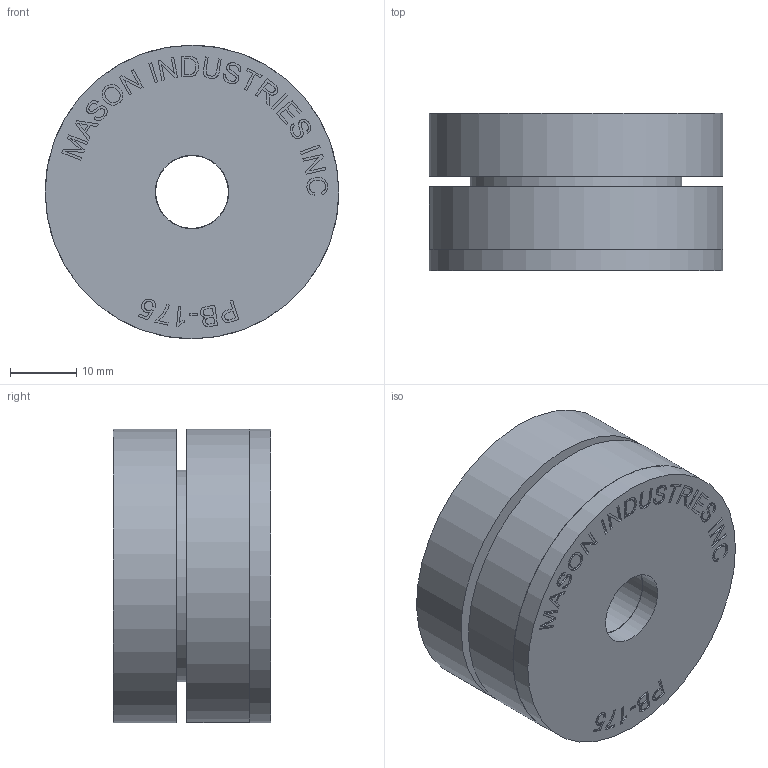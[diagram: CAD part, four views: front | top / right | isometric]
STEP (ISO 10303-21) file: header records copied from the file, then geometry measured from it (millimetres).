
FILE_DESCRIPTION((''),'2;1');
FILE_NAME('C:\REVIT SHARED FILES\STP\PB\PB-175.stp','2013-09-06T17:33:04',('rramoutar'),(''),'Autodesk Inventor 2012','Autodesk Inventor 2012','');
FILE_SCHEMA(('AUTOMOTIVE_DESIGN { 1 0 10303 214 1 1 1 1 }'));
Length unit declared in the file: inch
Products named in the file (6): A-24495-1 PB-175 ASSY; A-24495-1 PB-175 INNER MOLDED WASHER; A-24495-1 PB-175 INNER STEEL TUBE; A-24495-1 PB-175 OUTER MOLDED WASHER; A-24495-1 PB-175 STEEL WASHER; A-24495-11 PB-175 OUTER STEEL TUBE
Assembly tree (6 placements, depth 2):
  A-24495-1 PB-175 ASSY
    A-24495-1 PB-175 INNER MOLDED WASHER
    A-24495-1 PB-175 INNER STEEL TUBE
    A-24495-1 PB-175 OUTER MOLDED WASHER  x2
    A-24495-1 PB-175 STEEL WASHER
    A-24495-11 PB-175 OUTER STEEL TUBE
Bounding box: 44.45 x 23.81 x 44.45 mm (x, y, z)
Volume: 27965.2 mm3; surface area: 17982.4 mm2
Topology: 6 solids, 6 shells, 322 faces, 837 edges, 558 vertices
Faces by surface type: plane 198, bspline 112, cylinder 12
Full cylindrical faces by diameter (mm): 11 x1, 11.113 x1, 12 x2, 29 x2, 32 x3, 44.45 x3
Entity records: 10884 total; most frequent: CARTESIAN_POINT 3629, ORIENTED_EDGE 1642, DIRECTION 1053, EDGE_CURVE 821, VECTOR 577, LINE 577, VERTEX_POINT 554, EDGE_LOOP 369
